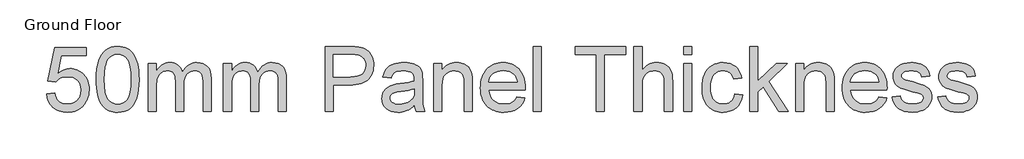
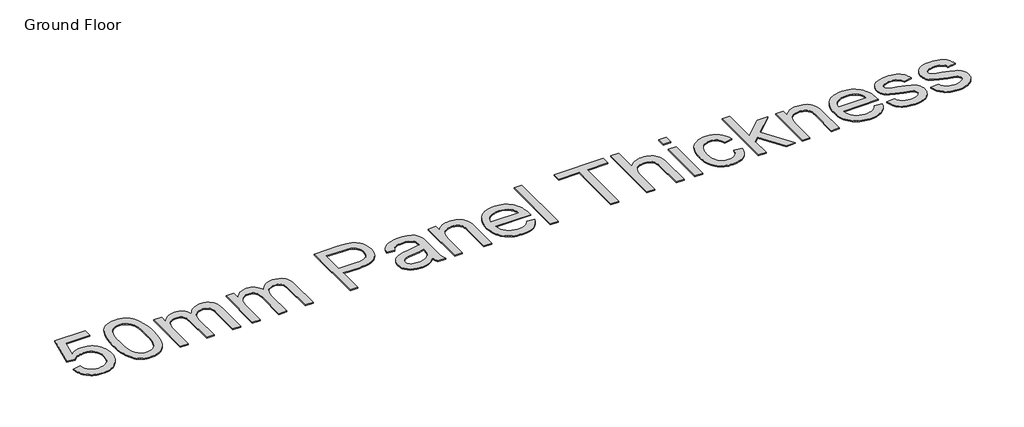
# One storey, part 6 of 11: 1 proxy.
"""IFC4 building model written with IfcOpenShell, lengths in millimetres."""

from ifc_helpers import new_model, si_unit, origin, origin_with_axes, place, context, project, spatial, polyline, outline, extrude, element, save

model = new_model("IFC4")

# Units and contexts
model_context = context("Model", 3, world=origin())
ifc_project = project(units=[si_unit("LENGTHUNIT", "METRE", prefix="MILLI")], contexts=[model_context])

# Site, building, storey
site = spatial("IfcSite", under=ifc_project)
building = spatial("IfcBuilding", under=site)
storey = spatial("IfcBuildingStorey", under=building, Name="Ground Floor", Elevation=0.0)

# Proxy
placement = place(None, origin())
element("IfcBuildingElementProxy", 1, Name="1200mm Arial", ObjectType="1200mm Arial", at=placement, inside=storey, context=model_context, shape_type="SweptSolid", body=[
    extrude(outline(polyline([(-22054.9360144, 20662.1303888), (-21904.2515492, 20680.9659469), (-21892.9943602, 20632.5250852), (-21876.5868232, 20590.5037643), (-21855.0289383, 20554.9019842), (-21828.3207054, 20525.719745), (-21796.5173069, 20502.9938347), (-21759.6739251, 20486.7610417), (-21717.79056, 20477.0213659), (-21670.8672115, 20473.7748073), (-21613.4776202, 20478.2905587), (-21562.8570577, 20491.8378132), (-21519.0055239, 20514.4165707), (-21481.9230188, 20546.0268311), (-21452.4372768, 20585.105096), (-21431.3760326, 20630.087867), (-21418.7392861, 20680.975144), (-21414.5270372, 20737.766927), (-21418.4725716, 20791.4409101), (-21430.3091748, 20839.1552049), (-21450.0368468, 20880.9098113), (-21477.6555876, 20916.7047295), (-21513.2573677, 20945.4179192), (-21556.9341576, 20965.9273404), (-21608.6859572, 20978.2329931), (-21668.5127667, 20982.3348774), (-21706.8000854, 20980.6978025), (-21741.6109191, 20975.7865779), (-21772.9452681, 20967.6012035), (-21800.8031322, 20956.1416793), (-21848.0759686, 20926.0489321), (-21885.4159911, 20888.1570866), (-22036.1004563, 20906.9926448), (-21904.2515492, 21528.5660638), (-21320.3492465, 21528.5660638), (-21320.3492465, 21377.8815986), (-21782.4090324, 21377.8815986), (-21846.861958, 21045.9048862), (-21793.6846156, 21084.0174609), (-21739.2196862, 21111.2407285), (-21683.4671698, 21127.5746891), (-21626.4270665, 21133.0193426), (-21588.9881757, 21131.331684), (-21553.0438055, 21126.268708), (-21518.5939559, 21117.8304147), (-21485.6386269, 21106.0168042), (-21454.1778185, 21090.8278763), (-21424.2115308, 21072.2636311), (-21395.7397636, 21050.3240686), (-21368.762517, 21025.0091888), (-21344.1719049, 20997.0409601), (-21322.8600411, 20967.141351), (-21304.8269255, 20935.3103614), (-21290.0725583, 20901.5479912), (-21278.5969393, 20865.8542407), (-21270.4000686, 20828.2291096), (-21265.4819462, 20788.6725981), (-21263.842572, 20747.1847061), (-21269.747078, 20669.1201467), (-21277.1277106, 20632.1296121), (-21287.4605961, 20596.5002408), (-21300.7457347, 20562.232033), (-21316.9831262, 20529.3249885), (-21336.1727708, 20497.7791074), (-21358.3146684, 20467.5943897), (-21388.3154451, 20433.7262536), (-21420.928184, 20404.3738689), (-21456.152885, 20379.5372357), (-21493.9895482, 20359.216354), (-21534.4381736, 20343.4112237), (-21577.4987611, 20332.121845), (-21623.1713108, 20325.3482178), (-21671.4558227, 20323.090342), (-21749.2168794, 20328.8936805), (-21785.2762127, 20336.1478536), (-21819.4547493, 20346.3036959), (-21851.7524892, 20359.3612075), (-21882.1694325, 20375.3203883), (-21910.705579, 20394.1812383), (-21937.3609288, 20415.9437576), (-21961.698622, 20440.1021084), (-21983.2817988, 20466.1504529), (-22002.1104592, 20494.0887912), (-22018.1846031, 20523.9171232), (-22031.5042306, 20555.635449), (-22042.0693417, 20589.2437685), (-22054.9360144, 20662.1303888)])), origin_with_axes(), (0.0, 0.0, 1.0), 20.0),
    extrude(outline(polyline([(-21131.9936649, 20934.9516764), (-21129.2253529, 21036.3123631), (-21120.9204169, 21127.9057829), (-21107.0788568, 21209.7319357), (-21087.7006727, 21281.7908215), (-21062.868638, 21344.6710515), (-21032.6655262, 21398.9612369), (-20997.0913373, 21444.6613778), (-20956.1460712, 21481.771474), (-20909.6917723, 21510.4846638), (-20857.5904847, 21530.994085), (-20799.8422085, 21543.2997377), (-20736.4469437, 21547.401622), (-20688.8062254, 21544.9736008), (-20643.5935281, 21537.6895373), (-20600.8088521, 21525.5494315), (-20560.4521972, 21508.5532833), (-20523.4984508, 21486.9862013), (-20490.9225001, 21461.1332941), (-20462.7243452, 21430.9945617), (-20438.903986, 21396.570004), (-20418.2658061, 21357.9975768), (-20399.6141889, 21315.4152358), (-20368.270643, 21218.2208127), (-20356.296084, 21161.0611477), (-20347.7428276, 21094.7964033), (-20342.6108738, 21019.4265796), (-20340.9002225, 20934.9516764), (-20343.6409434, 20834.2347832), (-20351.863106, 20743.1012159), (-20365.5667103, 20661.5509746), (-20384.7517563, 20589.5840593), (-20409.390653, 20526.6762382), (-20439.455809, 20472.3032793), (-20474.9472245, 20426.4651827), (-20515.8648994, 20389.1619484), (-20562.3743807, 20360.2556206), (-20614.6412151, 20339.6082436), (-20672.6654028, 20327.2198174), (-20736.4469437, 20323.090342), (-20779.1212552, 20324.8837668), (-20819.4411218, 20330.2640409), (-20857.4065437, 20339.2311646), (-20893.0175209, 20351.7851377), (-20926.2740532, 20367.9259602), (-20957.1761408, 20387.6536322), (-20985.7237837, 20410.9681536), (-21011.9169817, 20437.8695245), (-21040.0599543, 20480.465661), (-21064.4505306, 20528.6444068), (-21085.0887106, 20582.4057619), (-21101.9744941, 20641.7497263), (-21115.1078814, 20706.6762999), (-21124.4888722, 20777.1854828), (-21130.1174668, 20853.277275), (-21131.9936649, 20934.9516764)]), holes=[polyline([(-20981.3091997, 20935.245982), (-20976.8946158, 20804.2524006), (-20963.6508639, 20698.2196125), (-20953.7180501, 20654.563516), (-20941.5779442, 20617.1476178), (-20927.2305464, 20585.971918), (-20910.6758566, 20561.0364165), (-20873.2990459, 20522.8594625), (-20831.8019569, 20495.5902096), (-20786.1845895, 20479.2286578), (-20736.4469437, 20473.7748073), (-20686.709298, 20479.2470519), (-20641.0919306, 20495.663786), (-20599.5948415, 20523.0250094), (-20562.2180308, 20561.3307221), (-20545.663341, 20586.3260044), (-20531.3159432, 20617.5338939), (-20519.1758374, 20654.9543906), (-20509.2430235, 20698.5874945), (-20495.9992717, 20804.4915239), (-20491.5846877, 20935.245982), (-20495.8521189, 21062.7722756), (-20508.6544123, 21166.9380626), (-20518.2561324, 21210.260766), (-20529.991568, 21247.7433428), (-20543.8607193, 21279.3857929), (-20559.863586, 21305.1881164), (-20596.6149974, 21345.2320715), (-20638.590333, 21373.8348967), (-20685.789593, 21390.9965917), (-20738.2127773, 21396.7171568), (-20787.6929057, 21391.6771734), (-20832.5377209, 21376.5572234), (-20872.7472229, 21351.3573068), (-20908.3214119, 21316.0774234), (-20925.4279246, 21287.5297806), (-20940.2535691, 21253.5374842), (-20952.7983451, 21214.1005344), (-20963.0622528, 21169.2189309), (-20976.747463, 21063.1217635), (-20981.3091997, 20935.245982)])]), origin_with_axes(), (0.0, 0.0, 1.0), 20.0),
    extrude(outline(polyline([(-20171.3801991, 20341.9259002), (-20171.3801991, 21227.1971334), (-20020.6957339, 21227.1971334), (-20020.6957339, 21081.5158633), (-19999.6528838, 21116.7865496), (-19975.3726721, 21148.4335982), (-19947.8550989, 21176.4570092), (-19917.1001641, 21200.8567825), (-19883.6045084, 21220.6212427), (-19847.8647726, 21234.7387143), (-19809.8809566, 21243.2091972), (-19769.6530604, 21246.0326915), (-19725.6727679, 21243.1540149), (-19685.8495419, 21234.5179851), (-19650.1833825, 21220.124602), (-19618.6742896, 21199.9738657), (-19591.4142337, 21174.6359933), (-19568.4951854, 21144.6812019), (-19549.9171447, 21110.1094914), (-19535.6801115, 21070.9208618), (-19509.1834108, 21111.9626969), (-19480.7553296, 21147.5322873), (-19450.3958679, 21177.6296331), (-19418.1050258, 21202.2547341), (-19383.8828032, 21221.4075905), (-19347.7292001, 21235.0882022), (-19309.6442166, 21243.2965692), (-19269.6278526, 21246.0326915), (-19209.3044024, 21241.4801518), (-19156.3569862, 21227.8225328), (-19110.7856041, 21205.0598343), (-19072.5902559, 21173.1920565), (-19056.4149445, 21153.7517923), (-19042.3963412, 21131.8513173), (-19020.8292592, 21080.6697347), (-19007.88901, 21019.6473088), (-19003.5755936, 20948.7840394), (-19003.5755936, 20341.9259002), (-19154.2600589, 20341.9259002), (-19154.2600589, 20884.0368083), (-19157.7549378, 20959.1950999), (-19168.2395747, 21009.8524506), (-19176.6456783, 21028.1269887), (-19187.8844732, 21044.5437228), (-19201.9559595, 21059.1026527), (-19218.8601372, 21071.8037786), (-19237.9808039, 21082.1044745), (-19258.7017573, 21089.4621144), (-19304.9445241, 21095.3482263), (-19347.6464267, 21091.5774359), (-19386.5775388, 21080.2650645), (-19421.7378605, 21061.4111123), (-19453.1273918, 21035.0155791), (-19478.9435108, 21000.3059129), (-19497.3835958, 20956.5095613), (-19508.4476468, 20903.6265245), (-19512.1356638, 20841.6568024), (-19512.1356638, 20341.9259002), (-19662.820129, 20341.9259002), (-19662.820129, 20900.8122273), (-19664.9998298, 20946.4663829), (-19671.5389323, 20986.0136973), (-19682.4374364, 21019.4541707), (-19697.6953421, 21046.7878029), (-19717.9196548, 21068.0329882), (-19743.7173797, 21083.2081205), (-19775.0885169, 21092.3131998), (-19812.0330662, 21095.3482263), (-19841.6291728, 21093.3248753), (-19870.0848451, 21087.2548224), (-19897.4000832, 21077.1380675), (-19923.5748872, 21062.9746107), (-19947.4136405, 21044.9116048), (-19967.7207266, 21023.0962025), (-19984.4961456, 20997.5284038), (-19997.7398974, 20968.2082088), (-20007.7830759, 20933.5721189), (-20014.9567748, 20892.0566358), (-20019.2609941, 20843.6617593), (-20020.6957339, 20788.3874895), (-20020.6957339, 20341.9259002), (-20171.3801991, 20341.9259002)])), origin_with_axes(), (0.0, 0.0, 1.0), 20.0),
    extrude(outline(polyline([(-18777.5488958, 20341.9259002), (-18777.5488958, 21227.1971334), (-18626.8644306, 21227.1971334), (-18626.8644306, 21081.5158633), (-18605.8215805, 21116.7865496), (-18581.5413688, 21148.4335982), (-18554.0237955, 21176.4570092), (-18523.2688607, 21200.8567825), (-18489.7732051, 21220.6212427), (-18454.0334692, 21234.7387143), (-18416.0496532, 21243.2091972), (-18375.8217571, 21246.0326915), (-18331.8414646, 21243.1540149), (-18292.0182386, 21234.5179851), (-18256.3520791, 21220.124602), (-18224.8429863, 21199.9738657), (-18197.5829304, 21174.6359933), (-18174.6638821, 21144.6812019), (-18156.0858414, 21110.1094914), (-18141.8488081, 21070.9208618), (-18115.3521074, 21111.9626969), (-18086.9240263, 21147.5322873), (-18056.5645646, 21177.6296331), (-18024.2737225, 21202.2547341), (-17990.0514999, 21221.4075905), (-17953.8978968, 21235.0882022), (-17915.8129133, 21243.2965692), (-17875.7965492, 21246.0326915), (-17815.4730991, 21241.4801518), (-17762.5256829, 21227.8225328), (-17716.9543008, 21205.0598343), (-17678.7589526, 21173.1920565), (-17662.5836411, 21153.7517923), (-17648.5650379, 21131.8513173), (-17626.9979559, 21080.6697347), (-17614.0577067, 21019.6473088), (-17609.7442903, 20948.7840394), (-17609.7442903, 20341.9259002), (-17760.4287555, 20341.9259002), (-17760.4287555, 20884.0368083), (-17763.9236345, 20959.1950999), (-17774.4082714, 21009.8524506), (-17782.814375, 21028.1269887), (-17794.0531699, 21044.5437228), (-17808.1246562, 21059.1026527), (-17825.0288339, 21071.8037786), (-17844.1495006, 21082.1044745), (-17864.870454, 21089.4621144), (-17911.1132208, 21095.3482263), (-17953.8151234, 21091.5774359), (-17992.7462355, 21080.2650645), (-18027.9065572, 21061.4111123), (-18059.2960884, 21035.0155791), (-18085.1122074, 21000.3059129), (-18103.5522924, 20956.5095613), (-18114.6163434, 20903.6265245), (-18118.3043605, 20841.6568024), (-18118.3043605, 20341.9259002), (-18268.9888257, 20341.9259002), (-18268.9888257, 20900.8122273), (-18271.1685265, 20946.4663829), (-18277.707629, 20986.0136973), (-18288.6061331, 21019.4541707), (-18303.8640388, 21046.7878029), (-18324.0883515, 21068.0329882), (-18349.8860764, 21083.2081205), (-18381.2572136, 21092.3131998), (-18418.2017629, 21095.3482263), (-18447.7978694, 21093.3248753), (-18476.2535418, 21087.2548224), (-18503.5687799, 21077.1380675), (-18529.7435839, 21062.9746107), (-18553.5823371, 21044.9116048), (-18573.8894233, 21023.0962025), (-18590.6648423, 20997.5284038), (-18603.9085941, 20968.2082088), (-18613.9517726, 20933.5721189), (-18621.1254715, 20892.0566358), (-18625.4296908, 20843.6617593), (-18626.8644306, 20788.3874895), (-18626.8644306, 20341.9259002), (-18777.5488958, 20341.9259002)])), origin_with_axes(), (0.0, 0.0, 1.0), 20.0),
    extrude(outline(polyline([(-16893.9930805, 20341.9259002), (-16893.9930805, 21547.401622), (-16447.2371856, 21547.401622), (-16343.2001573, 21544.5321424), (-16267.1221607, 21535.9237037), (-16225.1928103, 21526.8830037), (-16186.8135212, 21514.4761834), (-16151.9842933, 21498.7032429), (-16120.7051266, 21479.5641821), (-16092.6449275, 21456.6635279), (-16067.4726019, 21429.6058071), (-16045.1881501, 21398.3910198), (-16025.7915719, 21363.019166), (-16010.0830107, 21324.658271), (-15998.8626098, 21284.47636), (-15992.1303693, 21242.4734332), (-15989.8862892, 21198.6494906), (-15995.947145, 21124.6500272), (-16003.5232149, 21089.8713831), (-16014.1297126, 21056.573464), (-16027.7666383, 21024.75627), (-16044.433992, 20994.4198009), (-16064.1317736, 20965.5640569), (-16086.8599831, 20938.189038), (-16113.542924, 20913.2190475), (-16145.1049, 20891.5783892), (-16181.5459109, 20873.2670629), (-16222.8659567, 20858.2850686), (-16269.0650375, 20846.6324064), (-16320.1431533, 20838.3090763), (-16376.100304, 20833.3150782), (-16436.9364897, 20831.6504122), (-16743.3086153, 20831.6504122), (-16743.3086153, 20341.9259002), (-16893.9930805, 20341.9259002)]), holes=[polyline([(-16743.3086153, 20982.3348774), (-16428.1073218, 20982.3348774), (-16355.6345688, 20985.7929681), (-16294.4925812, 20996.1672404), (-16244.681359, 21013.4576942), (-16206.2009023, 21037.6643295), (-16177.4877126, 21068.1433528), (-16156.9782914, 21104.2509706), (-16144.6726386, 21145.9871829), (-16140.5707544, 21193.3519898), (-16142.9895785, 21228.5215086), (-16150.2460509, 21261.0422769), (-16162.3401714, 21290.9142949), (-16179.2719403, 21318.1375626), (-16200.1400465, 21341.8291631), (-16224.0431791, 21361.1061796), (-16250.9813382, 21375.9686122), (-16280.9545237, 21386.4164609), (-16339.079879, 21394.1419828), (-16431.638989, 21396.7171568), (-16743.3086153, 21396.7171568), (-16743.3086153, 20982.3348774)])]), origin_with_axes(), (0.0, 0.0, 1.0), 20.0),
    extrude(outline(polyline([(-15236.463963, 20454.9392491), (-15272.1945018, 20421.4068052), (-15308.4584695, 20393.2086503), (-15345.2558661, 20370.3447843), (-15382.5866915, 20352.8152072), (-15420.8740102, 20339.8105787), (-15460.5408863, 20330.5215583), (-15501.5873199, 20324.9481461), (-15544.013311, 20323.090342), (-15611.1057899, 20327.5601083), (-15669.939318, 20340.969407), (-15720.5138952, 20363.3182382), (-15762.8295217, 20394.6066019), (-15796.2424039, 20432.8479353), (-15820.1087484, 20476.0556756), (-15834.428555, 20524.2298229), (-15839.2018239, 20577.3703771), (-15837.3992022, 20609.3209284), (-15831.9913368, 20639.8367399), (-15822.9782279, 20668.9178116), (-15810.3598755, 20696.5641435), (-15794.8076642, 20722.1687304), (-15776.9929785, 20745.1245669), (-15756.9158187, 20765.431653), (-15734.5761845, 20783.0899888), (-15684.7281742, 20811.7847844), (-15629.0676283, 20832.533329), (-15574.8418222, 20844.0848236), (-15498.6902492, 20855.1948599), (-15344.6212696, 20879.0336131), (-15285.134751, 20892.4980942), (-15237.3468798, 20906.9926448), (-15236.463963, 20940.5434827), (-15239.0575311, 20977.0741649), (-15246.8382353, 21007.7923115), (-15259.8060756, 21032.6979225), (-15277.9610521, 21051.7909981), (-15309.3413863, 21070.8472854), (-15347.5643256, 21084.4589193), (-15392.62987, 21092.6258995), (-15444.5380195, 21095.3482263), (-15492.8041373, 21093.5364075), (-15534.3012263, 21088.100951), (-15569.0292867, 21079.0418569), (-15596.9883183, 21066.3591251), (-15619.9625489, 21049.0594743), (-15639.7362061, 21026.149623), (-15656.30929, 20997.6295713), (-15669.6818006, 20963.4993192), (-15820.3662658, 20982.3348774), (-15808.8975446, 21025.7449528), (-15794.2098559, 21064.7404443), (-15776.3031998, 21099.3213519), (-15755.1775762, 21129.4876755), (-15729.9224773, 21155.8464204), (-15699.627395, 21179.004592), (-15664.2923293, 21198.9621903), (-15623.9172804, 21215.7192151), (-15579.3207855, 21228.9813611), (-15531.3213822, 21238.4543224), (-15479.9190704, 21244.1380993), (-15425.1138502, 21246.0326915), (-15371.5410346, 21244.3588285), (-15323.2473257, 21239.3372392), (-15280.2327234, 21230.9679238), (-15242.4972278, 21219.2508823), (-15209.728139, 21205.004652), (-15181.6127576, 21189.0477705), (-15158.1510833, 21171.3802377), (-15139.3431163, 21152.0020536), (-15124.0944076, 21130.4349716), (-15111.3105083, 21106.2007452), (-15093.1371377, 21049.7308589), (-15087.6189078, 20997.6387684), (-15085.7794978, 20917.8819518), (-15085.7794978, 20730.4092871), (-15083.8665114, 20567.1064694), (-15078.1275523, 20468.6244593), (-15066.7967869, 20403.9140164), (-15048.1083815, 20341.9259002), (-15198.7928467, 20341.9259002), (-15212.1837514, 20367.0890287), (-15222.9259056, 20394.3122963), (-15236.463963, 20454.9392491)]), holes=[polyline([(-15236.463963, 20756.3081796), (-15282.007754, 20743.2667628), (-15337.7050881, 20731.2186275), (-15479.5603854, 20710.102201), (-15557.7353094, 20698.5507063), (-15609.2020005, 20685.6748365), (-15642.9367795, 20668.9729939), (-15667.915967, 20645.943581), (-15683.3670108, 20618.3524314), (-15688.5173587, 20587.9653786), (-15685.7122585, 20564.5496896), (-15677.2969579, 20543.1573515), (-15663.2714568, 20523.7883645), (-15643.6357553, 20506.4427284), (-15618.5737944, 20492.1505129), (-15588.269515, 20481.9417876), (-15552.7229172, 20475.8165523), (-15511.934001, 20473.7748073), (-15470.2897592, 20476.0280845), (-15430.9999621, 20482.7879161), (-15394.0646098, 20494.0543022), (-15359.4837022, 20509.8272428), (-15328.287309, 20528.8007567), (-15301.5054998, 20549.6688629), (-15279.1382745, 20572.4315613), (-15261.1856331, 20597.088852), (-15250.7561785, 20619.1617718), (-15243.3065681, 20645.943581), (-15238.8368019, 20677.4342798), (-15237.3468798, 20713.6338681), (-15236.463963, 20756.3081796)])]), origin_with_axes(), (0.0, 0.0, 1.0), 20.0),
    extrude(outline(polyline([(-14878.5883581, 20341.9259002), (-14878.5883581, 21227.1971334), (-14727.9038929, 21227.1971334), (-14727.9038929, 21103.588783), (-14703.0442671, 21136.9740741), (-14675.554285, 21165.907993), (-14645.4339466, 21190.3905398), (-14612.683252, 21210.4217144), (-14577.3022011, 21226.0015169), (-14539.290794, 21237.1299472), (-14498.6490306, 21243.8070055), (-14455.3769109, 21246.0326915), (-14417.4574742, 21244.2392668), (-14381.101536, 21238.8589926), (-14346.3090964, 21229.891869), (-14313.0801551, 21217.3378959), (-14282.6747082, 21201.868458), (-14256.3527515, 21184.1549399), (-14234.1142849, 21164.1973417), (-14215.9593084, 21141.9956633), (-14188.5520998, 21090.9704306), (-14170.7833994, 21031.1896063), (-14164.8237111, 20974.0207443), (-14162.8371483, 20885.5083363), (-14162.8371483, 20341.9259002), (-14313.5216135, 20341.9259002), (-14313.5216135, 20865.2012501), (-14317.8626211, 20943.1186567), (-14323.2888805, 20973.6344682), (-14330.8856437, 20998.5216852), (-14341.2323248, 21019.4817619), (-14354.908338, 21038.2161525), (-14371.9136832, 21054.724857), (-14392.2483605, 21069.0078755), (-14415.2133941, 21080.531779), (-14440.1098081, 21088.7631386), (-14466.9376026, 21093.7019544), (-14495.6967775, 21095.3482263), (-14541.4521007, 21091.6510123), (-14583.9516682, 21080.5593701), (-14623.19548, 21062.0732998), (-14659.1835362, 21036.1928015), (-14675.2898698, 21019.7438778), (-14689.2486923, 20999.9748191), (-14701.0600036, 20976.8856253), (-14710.7238037, 20950.4762966), (-14723.6088706, 20887.6972341), (-14727.9038929, 20811.6376316), (-14727.9038929, 20341.9259002), (-14878.5883581, 20341.9259002)])), origin_with_axes(), (0.0, 0.0, 1.0), 20.0),
    extrude(outline(polyline([(-13335.8384232, 20605.6237143), (-13188.0970139, 20586.7881562), (-13210.7493477, 20527.6143373), (-13241.3295386, 20475.4670644), (-13279.8375864, 20430.3463377), (-13326.2734913, 20392.2521571), (-13380.1590065, 20361.993863), (-13441.0158856, 20340.3807958), (-13508.8441284, 20327.4129555), (-13583.6437351, 20323.090342), (-13631.666131, 20324.9550439), (-13677.1409442, 20330.5491495), (-13720.0681745, 20339.8726588), (-13760.447822, 20352.9255718), (-13798.2798867, 20369.7078886), (-13833.5643685, 20390.2196091), (-13866.3012676, 20414.4607333), (-13896.4905838, 20442.4312613), (-13923.5988883, 20473.7679095), (-13947.0927522, 20508.1073945), (-13966.9721756, 20545.4497162), (-13983.2371583, 20585.7948748), (-13995.8877004, 20629.1428701), (-14004.9238019, 20675.4937023), (-14010.3454628, 20724.8473712), (-14012.1526831, 20777.2038769), (-14010.3270687, 20831.342311), (-14004.8502255, 20882.3629452), (-13995.7221535, 20930.2657795), (-13982.9428527, 20975.0508139), (-13966.5123231, 21016.7180484), (-13946.4305646, 21055.2674829), (-13922.6975774, 21090.6991176), (-13895.3133614, 21123.0129523), (-13865.0182791, 21151.8457037), (-13832.552693, 21176.8340882), (-13797.9166032, 21197.9781059), (-13761.1100096, 21215.2777567), (-13722.1329122, 21228.7330407), (-13680.985311, 21238.3439578), (-13637.6672061, 21244.1105081), (-13592.1785974, 21246.0326915), (-13548.1776115, 21244.1151066), (-13506.2321663, 21238.3623519), (-13466.3422617, 21228.7744274), (-13428.5078977, 21215.3513331), (-13392.7290744, 21198.093069), (-13359.0057918, 21176.9996351), (-13327.3380498, 21152.0710314), (-13297.7258485, 21123.3072579), (-13270.9279444, 21091.0669996), (-13247.7030942, 21055.7089413), (-13228.0512978, 21017.2330832), (-13211.9725554, 20975.6394251), (-13199.4668668, 20930.9279671), (-13190.5342321, 20883.0987092), (-13185.1746513, 20832.1516514), (-13183.3881244, 20778.0867937), (-13184.2710411, 20737.4726214), (-13861.4682179, 20737.4726214), (-13852.7402175, 20677.3423093), (-13835.3853844, 20624.6800017), (-13809.4037185, 20579.4856986), (-13774.7952198, 20541.7594), (-13733.4728747, 20512.0161407), (-13687.3496695, 20490.7709554), (-13636.4256044, 20478.0238443), (-13580.7006791, 20473.7748073), (-13539.0196491, 20475.7429759), (-13500.5024042, 20481.647482), (-13465.1489445, 20491.4883253), (-13432.9592699, 20505.265506), (-13403.9333805, 20523.3469061), (-13378.0712762, 20546.1004075), (-13355.3729571, 20573.5260103), (-13335.8384232, 20605.6237143)]), holes=[polyline([(-13861.4682179, 20888.1570866), (-13334.0725896, 20888.1570866), (-13341.8165056, 20930.7946099), (-13354.4532521, 20967.7667504), (-13371.9828292, 20999.0735082), (-13394.4052368, 21024.7148832), (-13435.4976556, 21055.6169708), (-13482.2554572, 21077.6898905), (-13534.6786415, 21090.9336424), (-13592.7672086, 21095.3482263), (-13645.7514129, 21091.8257562), (-13694.3394275, 21081.2583459), (-13738.5312521, 21063.6459954), (-13778.326887, 21038.9887046), (-13811.7213751, 21008.4269079), (-13836.7097596, 20973.1010393), (-13853.2920405, 20933.0110989), (-13861.4682179, 20888.1570866)])]), origin_with_axes(), (0.0, 0.0, 1.0), 20.0),
    extrude(outline(polyline([(-13032.7036591, 20341.9259002), (-13032.7036591, 21547.401622), (-12882.0191939, 21547.401622), (-12882.0191939, 20341.9259002), (-13032.7036591, 20341.9259002)])), origin_with_axes(), (0.0, 0.0, 1.0), 20.0),
    extrude(outline(polyline([(-11864.8990536, 20341.9259002), (-11864.8990536, 21396.7171568), (-12260.4457749, 21396.7171568), (-12260.4457749, 21547.401622), (-11318.6678672, 21547.401622), (-11318.6678672, 21396.7171568), (-11714.2145884, 21396.7171568), (-11714.2145884, 20341.9259002), (-11864.8990536, 20341.9259002)])), origin_with_axes(), (0.0, 0.0, 1.0), 20.0),
    extrude(outline(polyline([(-11167.983402, 20341.9259002), (-11167.983402, 21547.401622), (-11017.2989368, 21547.401622), (-11017.2989368, 21104.1773942), (-10990.4757408, 21137.4247295), (-10961.9510906, 21166.2390868), (-10931.7249861, 21190.620466), (-10899.7974275, 21210.5688672), (-10866.1684146, 21226.0842903), (-10830.8379475, 21237.1667354), (-10793.8060262, 21243.8162025), (-10755.0726506, 21246.0326915), (-10707.9653611, 21243.6138674), (-10664.058645, 21236.3573951), (-10623.3525022, 21224.2632745), (-10585.8469328, 21207.3315056), (-10552.4984299, 21186.1323057), (-10524.2634868, 21161.2358916), (-10501.1421034, 21132.6422636), (-10483.1342798, 21100.3514214), (-10469.6146164, 21062.3676054), (-10459.9577141, 21016.6950557), (-10454.1635726, 20963.3337723), (-10452.2321922, 20902.2837552), (-10452.2321922, 20341.9259002), (-10602.9166574, 20341.9259002), (-10602.9166574, 20886.6855586), (-10605.9148956, 20937.5636386), (-10614.9096104, 20981.0105022), (-10629.9008017, 21017.0261495), (-10650.8884696, 21045.6105806), (-10677.3759732, 21067.3708006), (-10708.866672, 21082.9138149), (-10745.3605659, 21092.2396234), (-10786.857655, 21095.3482263), (-10819.1852853, 21093.2512989), (-10850.5380283, 21086.9605168), (-10880.9158841, 21076.47588), (-10910.3188526, 21061.7973883), (-10937.1558441, 21043.5320473), (-10959.8357691, 21022.2868621), (-10978.3586276, 20998.0618327), (-10992.7244195, 20970.8569591), (-11003.4757708, 20939.4214427), (-11011.1553074, 20902.5044844), (-11015.7630294, 20860.1060845), (-11017.2989368, 20812.2262428), (-11017.2989368, 20341.9259002), (-11167.983402, 20341.9259002)])), origin_with_axes(), (0.0, 0.0, 1.0), 20.0),
    extrude(outline(polyline([(-10245.0410525, 20341.9259002), (-10245.0410525, 21227.1971334), (-10094.3565873, 21227.1971334), (-10094.3565873, 20341.9259002), (-10245.0410525, 20341.9259002)])), origin_with_axes(), (0.0, 0.0, 1.0), 20.0),
    extrude(outline(polyline([(-10245.0410525, 21396.7171568), (-10245.0410525, 21547.401622), (-10094.3565873, 21547.401622), (-10094.3565873, 21396.7171568), (-10245.0410525, 21396.7171568)])), origin_with_axes(), (0.0, 0.0, 1.0), 20.0),
    extrude(outline(polyline([(-9303.2631448, 20662.1303888), (-9152.5786796, 20643.2948306), (-9168.9678225, 20572.192438), (-9194.5908034, 20509.2754198), (-9229.4476225, 20454.543776), (-9273.5382796, 20407.9975065), (-9325.0049707, 20370.8506221), (-9381.9898918, 20344.3171332), (-9444.4930428, 20328.3970398), (-9512.5144237, 20323.090342), (-9555.862419, 20324.9412483), (-9597.026115, 20330.4939672), (-9636.0055117, 20339.7484986), (-9672.800609, 20352.7048426), (-9707.4114069, 20369.3629992), (-9739.8379055, 20389.7229684), (-9770.0801048, 20413.7847502), (-9798.1380047, 20441.5483445), (-9823.4183956, 20472.7700296), (-9845.3280677, 20507.2060836), (-9863.867021, 20544.8565065), (-9879.0352555, 20585.7212984), (-9890.8327712, 20629.8004592), (-9899.2595682, 20677.0939889), (-9904.3156463, 20727.6018876), (-9906.0010057, 20781.3241552), (-9903.1223291, 20850.605532), (-9894.4862993, 20915.4171425), (-9880.0929162, 20975.7589867), (-9859.9421799, 21031.6310647), (-9833.8961347, 21081.9113364), (-9801.8168247, 21125.4777617), (-9763.70425, 21162.3303406), (-9719.5584106, 21192.469073), (-9671.3750662, 21215.9031561), (-9621.1499769, 21232.6417869), (-9568.8831424, 21242.6849654), (-9514.5745629, 21246.0326915), (-9447.7212073, 21241.4341666), (-9387.2506043, 21227.6385918), (-9333.162754, 21204.6459671), (-9285.4576563, 21172.4562925), (-9244.9446515, 21131.805332), (-9212.4330802, 21083.4288497), (-9187.9229423, 21027.3268454), (-9171.4142378, 20963.4993192), (-9322.098703, 20944.6637611), (-9333.8617298, 20979.860871), (-9349.4323352, 21010.4042736), (-9368.8105193, 21036.293969), (-9391.9962821, 21057.5299572), (-9418.4010123, 21074.0754499), (-9447.4360987, 21085.893659), (-9479.1015415, 21092.9845845), (-9513.3973405, 21095.3482263), (-9564.5973171, 21090.6945191), (-9610.7757046, 21076.7333974), (-9651.9325028, 21053.4648612), (-9688.0677118, 21020.8889105), (-9703.829156, 21000.9221152), (-9717.4890743, 20978.2513872), (-9738.5043333, 20924.7981333), (-9751.1134887, 20860.5291488), (-9755.3165405, 20785.4444336), (-9751.2054592, 20709.2284812), (-9738.8722153, 20644.2145356), (-9718.3168088, 20590.4025968), (-9704.9557946, 20567.6973799), (-9689.5392398, 20547.7926647), (-9654.1214007, 20515.4098521), (-9613.6451842, 20492.2792716), (-9568.1105902, 20478.4009233), (-9517.5176188, 20473.7748073), (-9476.7470967, 20476.6626809), (-9439.4898476, 20485.3263019), (-9405.7458716, 20499.7656702), (-9375.5151687, 20519.9807859), (-9349.6438674, 20546.192378), (-9328.9780963, 20578.6211759), (-9313.5178554, 20617.2671795), (-9303.2631448, 20662.1303888)])), origin_with_axes(), (0.0, 0.0, 1.0), 20.0),
    extrude(outline(polyline([(-9020.7297725, 20341.9259002), (-9020.7297725, 21547.401622), (-8870.0453073, 21547.401622), (-8870.0453073, 20899.6350049), (-8532.1824829, 21227.1971334), (-8323.8141209, 21227.1971334), (-8665.7972236, 20895.5147265), (-8304.9785627, 20341.9259002), (-8480.9733092, 20341.9259002), (-8773.8073774, 20790.7419343), (-8870.0453073, 20697.4470603), (-8870.0453073, 20341.9259002), (-9020.7297725, 20341.9259002)])), origin_with_axes(), (0.0, 0.0, 1.0), 20.0),
    extrude(outline(polyline([(-8173.1296556, 20341.9259002), (-8173.1296556, 21227.1971334), (-8022.4451904, 21227.1971334), (-8022.4451904, 21103.588783), (-7997.5855646, 21136.9740741), (-7970.0955825, 21165.907993), (-7939.9752441, 21190.3905398), (-7907.2245495, 21210.4217144), (-7871.8434986, 21226.0015169), (-7833.8320915, 21237.1299472), (-7793.1903281, 21243.8070055), (-7749.9182084, 21246.0326915), (-7711.9987717, 21244.2392668), (-7675.6428336, 21238.8589926), (-7640.8503939, 21229.891869), (-7607.6214527, 21217.3378959), (-7577.2160058, 21201.868458), (-7550.894049, 21184.1549399), (-7528.6555824, 21164.1973417), (-7510.5006059, 21141.9956633), (-7483.0933973, 21090.9704306), (-7465.3246969, 21031.1896063), (-7459.3650086, 20974.0207443), (-7457.3784458, 20885.5083363), (-7457.3784458, 20341.9259002), (-7608.062911, 20341.9259002), (-7608.062911, 20865.2012501), (-7612.4039186, 20943.1186567), (-7617.830178, 20973.6344682), (-7625.4269412, 20998.5216852), (-7635.7736223, 21019.4817619), (-7649.4496355, 21038.2161525), (-7666.4549807, 21054.724857), (-7686.789658, 21069.0078755), (-7709.7546916, 21080.531779), (-7734.6511056, 21088.7631386), (-7761.4789001, 21093.7019544), (-7790.2380751, 21095.3482263), (-7835.9933982, 21091.6510123), (-7878.4929657, 21080.5593701), (-7917.7367775, 21062.0732998), (-7953.7248337, 21036.1928015), (-7969.8311673, 21019.7438778), (-7983.7899898, 20999.9748191), (-7995.6013011, 20976.8856253), (-8005.2651012, 20950.4762966), (-8018.1501681, 20887.6972341), (-8022.4451904, 20811.6376316), (-8022.4451904, 20341.9259002), (-8173.1296556, 20341.9259002)])), origin_with_axes(), (0.0, 0.0, 1.0), 20.0),
    extrude(outline(polyline([(-6630.3797207, 20605.6237143), (-6482.6383114, 20586.7881562), (-6505.2906453, 20527.6143373), (-6535.8708361, 20475.4670644), (-6574.378884, 20430.3463377), (-6620.8147888, 20392.2521571), (-6674.700304, 20361.993863), (-6735.5571831, 20340.3807958), (-6803.3854259, 20327.4129555), (-6878.1850326, 20323.090342), (-6926.2074286, 20324.9550439), (-6971.6822417, 20330.5491495), (-7014.609472, 20339.8726588), (-7054.9891195, 20352.9255718), (-7092.8211842, 20369.7078886), (-7128.105666, 20390.2196091), (-7160.8425651, 20414.4607333), (-7191.0318813, 20442.4312613), (-7218.1401858, 20473.7679095), (-7241.6340498, 20508.1073945), (-7261.5134731, 20545.4497162), (-7277.7784558, 20585.7948748), (-7290.4289979, 20629.1428701), (-7299.4650994, 20675.4937023), (-7304.8867603, 20724.8473712), (-7306.6939806, 20777.2038769), (-7304.8683662, 20831.342311), (-7299.391523, 20882.3629452), (-7290.263451, 20930.2657795), (-7277.4841502, 20975.0508139), (-7261.0536206, 21016.7180484), (-7240.9718622, 21055.2674829), (-7217.2388749, 21090.6991176), (-7189.8546589, 21123.0129523), (-7159.5595766, 21151.8457037), (-7127.0939906, 21176.8340882), (-7092.4579007, 21197.9781059), (-7055.6513071, 21215.2777567), (-7016.6742097, 21228.7330407), (-6975.5266085, 21238.3439578), (-6932.2085036, 21244.1105081), (-6886.7198949, 21246.0326915), (-6842.718909, 21244.1151066), (-6800.7734638, 21238.3623519), (-6760.8835592, 21228.7744274), (-6723.0491953, 21215.3513331), (-6687.270372, 21198.093069), (-6653.5470893, 21176.9996351), (-6621.8793473, 21152.0710314), (-6592.267146, 21123.3072579), (-6565.4692419, 21091.0669996), (-6542.2443917, 21055.7089413), (-6522.5925953, 21017.2330832), (-6506.5138529, 20975.6394251), (-6494.0081643, 20930.9279671), (-6485.0755296, 20883.0987092), (-6479.7159488, 20832.1516514), (-6477.9294219, 20778.0867937), (-6478.8123387, 20737.4726214), (-7156.0095154, 20737.4726214), (-7147.281515, 20677.3423093), (-7129.9266819, 20624.6800017), (-7103.945016, 20579.4856986), (-7069.3365173, 20541.7594), (-7028.0141722, 20512.0161407), (-6981.8909671, 20490.7709554), (-6930.9669019, 20478.0238443), (-6875.2419767, 20473.7748073), (-6833.5609466, 20475.7429759), (-6795.0437017, 20481.647482), (-6759.690242, 20491.4883253), (-6727.5005674, 20505.265506), (-6698.474678, 20523.3469061), (-6672.6125737, 20546.1004075), (-6649.9142546, 20573.5260103), (-6630.3797207, 20605.6237143)]), holes=[polyline([(-7156.0095154, 20888.1570866), (-6628.6138871, 20888.1570866), (-6636.3578031, 20930.7946099), (-6648.9945496, 20967.7667504), (-6666.5241267, 20999.0735082), (-6688.9465343, 21024.7148832), (-6730.0389532, 21055.6169708), (-6776.7967547, 21077.6898905), (-6829.2199391, 21090.9336424), (-6887.3085061, 21095.3482263), (-6940.2927105, 21091.8257562), (-6988.880725, 21081.2583459), (-7033.0725496, 21063.6459954), (-7072.8681845, 21038.9887046), (-7106.2626726, 21008.4269079), (-7131.2510571, 20973.1010393), (-7147.833338, 20933.0110989), (-7156.0095154, 20888.1570866)])]), origin_with_axes(), (0.0, 0.0, 1.0), 20.0),
    extrude(outline(polyline([(-6383.7516311, 20605.6237143), (-6233.0671659, 20624.4592725), (-6223.9620865, 20590.0990941), (-6209.301989, 20560.0063469), (-6189.0868734, 20534.1810309), (-6163.3167396, 20512.6231459), (-6131.9180113, 20495.6269978), (-6094.8171121, 20483.4868919), (-6052.0140419, 20476.2028284), (-6003.5088009, 20473.7748073), (-5955.0587421, 20476.0004933), (-5913.3041357, 20482.6775515), (-5878.2449815, 20493.8059819), (-5849.8812797, 20509.3857844), (-5827.992301, 20527.9638251), (-5812.3573162, 20548.0869703), (-5802.9763253, 20569.7552198), (-5799.8493284, 20592.9685737), (-5802.9947194, 20613.312448), (-5812.4308926, 20631.375454), (-5828.1578479, 20647.1575916), (-5850.1755853, 20660.6588608), (-5906.6086834, 20679.7887246), (-6005.2746345, 20703.6274778), (-6142.7889243, 20743.3955215), (-6232.1842491, 20777.3510297), (-6262.8748045, 20794.374769), (-6289.6106285, 20814.3967466), (-6312.3917211, 20837.4169624), (-6331.2180822, 20863.4354165), (-6345.9609531, 20891.6703597), (-6356.4915753, 20921.3400426), (-6362.8099485, 20952.4444653), (-6364.9160729, 20984.9836278), (-6363.2238158, 21014.7360841), (-6358.1470442, 21043.3665004), (-6349.6857583, 21070.8748766), (-6337.8399581, 21097.2612127), (-6323.069496, 21121.9920798), (-6305.8342245, 21144.5340491), (-6286.1341437, 21164.8871204), (-6263.9692535, 21183.051294), (-6222.3617998, 21207.2947174), (-6168.1727819, 21227.6385918), (-6105.5224781, 21241.4341666), (-6038.5311668, 21246.0326915), (-5987.8922102, 21244.1840845), (-5940.4538269, 21238.6382634), (-5896.216017, 21229.3952283), (-5855.1787804, 21216.4549791), (-5818.3170045, 21200.3601418), (-5786.6055765, 21181.6533424), (-5760.0444965, 21160.3345808), (-5738.6337644, 21136.403857), (-5721.2697342, 21109.0242395), (-5706.84876, 21077.3587967), (-5695.3708417, 21041.4075288), (-5686.8359794, 21001.1704355), (-5837.5204447, 20982.3348774), (-5844.7033406, 21007.5072029), (-5856.5399438, 21029.7548666), (-5873.0302542, 21049.0778684), (-5894.1742719, 21065.4762083), (-5920.0639673, 21078.5452162), (-5950.791311, 21087.8802218), (-5986.3563029, 21093.4812252), (-6026.758943, 21095.3482263), (-6073.6271092, 21093.5639986), (-6113.2847882, 21088.2113156), (-6145.7319802, 21079.2901772), (-6170.9686851, 21066.8005835), (-6189.8962137, 21051.9381509), (-6203.4158771, 21035.8984959), (-6211.5276751, 21018.6816185), (-6214.2316077, 21000.2875188), (-6209.7434474, 20977.1109531), (-6196.2789664, 20956.4359849), (-6173.2495535, 20937.9683088), (-6140.0665975, 20923.1794526), (-6010.2778296, 20891.1001426), (-5877.1413355, 20851.7367691), (-5789.1071741, 20820.1724939), (-5758.1315101, 20804.7766324), (-5730.6875133, 20786.253774), (-5706.7751836, 20764.6039185), (-5686.394521, 20739.8270662), (-5670.1065457, 20711.8864286), (-5658.4722776, 20680.7452177), (-5651.4917168, 20646.4034335), (-5649.1648631, 20608.8610759), (-5651.8963869, 20571.1531714), (-5660.0909584, 20534.5489129), (-5673.7485775, 20499.0483003), (-5692.8692442, 20464.6513338), (-5717.1402588, 20432.7283736), (-5746.2489217, 20404.6497804), (-5780.1952328, 20380.4155539), (-5818.9791921, 20360.0256943), (-5861.5431389, 20343.8664777), (-5906.8294126, 20332.3241801), (-5954.8380129, 20325.3988016), (-6005.5689401, 20323.090342), (-6086.6685259, 20327.5417142), (-6157.5042041, 20340.8958306), (-6218.0759746, 20363.1526913), (-6244.5128945, 20377.6196508), (-6268.3838374, 20394.3122963), (-6309.4762563, 20434.2274928), (-6342.4016948, 20482.7511279), (-6367.1601531, 20539.8832018), (-6383.7516311, 20605.6237143)])), origin_with_axes(), (0.0, 0.0, 1.0), 20.0),
    extrude(outline(polyline([(-5536.1515142, 20605.6237143), (-5385.467049, 20624.4592725), (-5376.3619696, 20590.0990941), (-5361.7018721, 20560.0063469), (-5341.4867565, 20534.1810309), (-5315.7166227, 20512.6231459), (-5284.3178944, 20495.6269978), (-5247.2169952, 20483.4868919), (-5204.4139251, 20476.2028284), (-5155.908684, 20473.7748073), (-5107.4586252, 20476.0004933), (-5065.7040188, 20482.6775515), (-5030.6448646, 20493.8059819), (-5002.2811628, 20509.3857844), (-4980.3921841, 20527.9638251), (-4964.7571993, 20548.0869703), (-4955.3762084, 20569.7552198), (-4952.2492115, 20592.9685737), (-4955.3946025, 20613.312448), (-4964.8307757, 20631.375454), (-4980.557731, 20647.1575916), (-5002.5754684, 20660.6588608), (-5059.0085665, 20679.7887246), (-5157.6745176, 20703.6274778), (-5295.1888074, 20743.3955215), (-5384.5841322, 20777.3510297), (-5415.2746876, 20794.374769), (-5442.0105116, 20814.3967466), (-5464.7916042, 20837.4169624), (-5483.6179653, 20863.4354165), (-5498.3608363, 20891.6703597), (-5508.8914584, 20921.3400426), (-5515.2098316, 20952.4444653), (-5517.3159561, 20984.9836278), (-5515.6236989, 21014.7360841), (-5510.5469273, 21043.3665004), (-5502.0856415, 21070.8748766), (-5490.2398412, 21097.2612127), (-5475.4693791, 21121.9920798), (-5458.2341076, 21144.5340491), (-5438.5340268, 21164.8871204), (-5416.3691366, 21183.051294), (-5374.7616829, 21207.2947174), (-5320.572665, 21227.6385918), (-5257.9223613, 21241.4341666), (-5190.9310499, 21246.0326915), (-5140.2920933, 21244.1840845), (-5092.85371, 21238.6382634), (-5048.6159001, 21229.3952283), (-5007.5786635, 21216.4549791), (-4970.7168876, 21200.3601418), (-4939.0054596, 21181.6533424), (-4912.4443796, 21160.3345808), (-4891.0336475, 21136.403857), (-4873.6696173, 21109.0242395), (-4859.2486431, 21077.3587967), (-4847.7707248, 21041.4075288), (-4839.2358626, 21001.1704355), (-4989.9203278, 20982.3348774), (-4997.1032237, 21007.5072029), (-5008.9398269, 21029.7548666), (-5025.4301374, 21049.0778684), (-5046.574155, 21065.4762083), (-5072.4638504, 21078.5452162), (-5103.1911941, 21087.8802218), (-5138.756186, 21093.4812252), (-5179.1588261, 21095.3482263), (-5226.0269923, 21093.5639986), (-5265.6846714, 21088.2113156), (-5298.1318633, 21079.2901772), (-5323.3685682, 21066.8005835), (-5342.2960969, 21051.9381509), (-5355.8157602, 21035.8984959), (-5363.9275582, 21018.6816185), (-5366.6314908, 21000.2875188), (-5362.1433305, 20977.1109531), (-5348.6788495, 20956.4359849), (-5325.6494366, 20937.9683088), (-5292.4664806, 20923.1794526), (-5162.6777127, 20891.1001426), (-5029.5412187, 20851.7367691), (-4941.5070572, 20820.1724939), (-4910.5313932, 20804.7766324), (-4883.0873964, 20786.253774), (-4859.1750667, 20764.6039185), (-4838.7944042, 20739.8270662), (-4822.5064288, 20711.8864286), (-4810.8721607, 20680.7452177), (-4803.8915999, 20646.4034335), (-4801.5647462, 20608.8610759), (-4804.2962701, 20571.1531714), (-4812.4908415, 20534.5489129), (-4826.1484606, 20499.0483003), (-4845.2691273, 20464.6513338), (-4869.5401419, 20432.7283736), (-4898.6488048, 20404.6497804), (-4932.5951159, 20380.4155539), (-4971.3790752, 20360.0256943), (-5013.9430221, 20343.8664777), (-5059.2292957, 20332.3241801), (-5107.237896, 20325.3988016), (-5157.9688232, 20323.090342), (-5239.068409, 20327.5417142), (-5309.9040872, 20340.8958306), (-5370.4758577, 20363.1526913), (-5396.9127776, 20377.6196508), (-5420.7837205, 20394.3122963), (-5461.8761394, 20434.2274928), (-5494.801578, 20482.7511279), (-5519.5600362, 20539.8832018), (-5536.1515142, 20605.6237143)])), origin_with_axes(), (0.0, 0.0, 1.0), 20.0),
])

save(model, "model.ifc")
